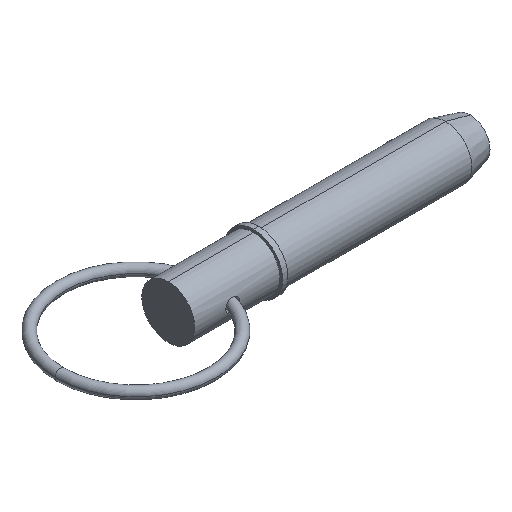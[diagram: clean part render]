
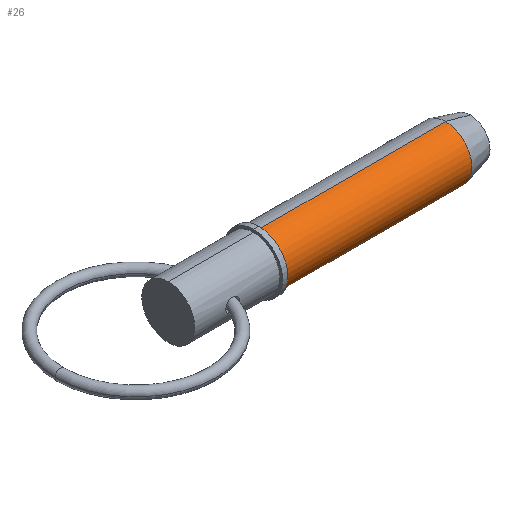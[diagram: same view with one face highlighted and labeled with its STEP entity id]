
A CAD part, isometric view. The second image highlights one B-rep face of the part: STEP entity #26.
In plain terms, the highlighted cylindrical face has radius 11.115 mm (diameter 22.23 mm), a partial arc.
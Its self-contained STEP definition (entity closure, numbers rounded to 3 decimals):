
#26 = ADVANCED_FACE ( 'NONE', ( #879 ), #707, .T. ) ;
#43 = EDGE_LOOP ( 'NONE', ( #1032, #601, #357, #524 ) ) ;
#109 = DIRECTION ( 'NONE',  ( 1., 0., 0. ) ) ;
#114 = AXIS2_PLACEMENT_3D ( 'NONE', #698, #109, #621 ) ;
#175 = CARTESIAN_POINT ( 'NONE',  ( 116.63, 0., -11.115 ) ) ;
#198 = DIRECTION ( 'NONE',  ( 1., 0., 0. ) ) ;
#224 = DIRECTION ( 'NONE',  ( 1., 0., 0. ) ) ;
#226 = EDGE_CURVE ( 'NONE', #369, #436, #510, .T. ) ;
#265 = CARTESIAN_POINT ( 'NONE',  ( 0., 0., 11.115 ) ) ;
#347 = VECTOR ( 'NONE', #837, 1000. ) ;
#357 = ORIENTED_EDGE ( 'NONE', *, *, #470, .T. ) ;
#369 = VERTEX_POINT ( 'NONE', #788 ) ;
#394 = LINE ( 'NONE', #1054, #890 ) ;
#412 = CARTESIAN_POINT ( 'NONE',  ( 116.63, 0., 11.115 ) ) ;
#436 = VERTEX_POINT ( 'NONE', #412 ) ;
#470 = EDGE_CURVE ( 'NONE', #937, #696, #394, .T. ) ;
#476 = CARTESIAN_POINT ( 'NONE',  ( 116.63, 0., 0. ) ) ;
#510 = LINE ( 'NONE', #265, #347 ) ;
#524 = ORIENTED_EDGE ( 'NONE', *, *, #1039, .F. ) ;
#572 = DIRECTION ( 'NONE',  ( 1., 0., 0. ) ) ;
#581 = DIRECTION ( 'NONE',  ( 0., 0., -1. ) ) ;
#601 = ORIENTED_EDGE ( 'NONE', *, *, #873, .T. ) ;
#621 = DIRECTION ( 'NONE',  ( 0., 0., -1. ) ) ;
#627 = CARTESIAN_POINT ( 'NONE',  ( 0., 0., 0. ) ) ;
#696 = VERTEX_POINT ( 'NONE', #175 ) ;
#698 = CARTESIAN_POINT ( 'NONE',  ( 38.1, 0., 0. ) ) ;
#700 = CIRCLE ( 'NONE', #114, 11.115 ) ;
#707 = CYLINDRICAL_SURFACE ( 'NONE', #971, 11.115 ) ;
#718 = AXIS2_PLACEMENT_3D ( 'NONE', #476, #224, #1053 ) ;
#772 = CARTESIAN_POINT ( 'NONE',  ( 38.1, 0., -11.115 ) ) ;
#788 = CARTESIAN_POINT ( 'NONE',  ( 38.1, 0., 11.115 ) ) ;
#837 = DIRECTION ( 'NONE',  ( 1., 0., 0. ) ) ;
#873 = EDGE_CURVE ( 'NONE', #369, #937, #700, .T. ) ;
#879 = FACE_OUTER_BOUND ( 'NONE', #43, .T. ) ;
#890 = VECTOR ( 'NONE', #572, 1000. ) ;
#937 = VERTEX_POINT ( 'NONE', #772 ) ;
#971 = AXIS2_PLACEMENT_3D ( 'NONE', #627, #198, #581 ) ;
#1032 = ORIENTED_EDGE ( 'NONE', *, *, #226, .F. ) ;
#1039 = EDGE_CURVE ( 'NONE', #436, #696, #1060, .T. ) ;
#1053 = DIRECTION ( 'NONE',  ( 0., 0., -1. ) ) ;
#1054 = CARTESIAN_POINT ( 'NONE',  ( 0., 0., -11.115 ) ) ;
#1060 = CIRCLE ( 'NONE', #718, 11.115 ) ;
